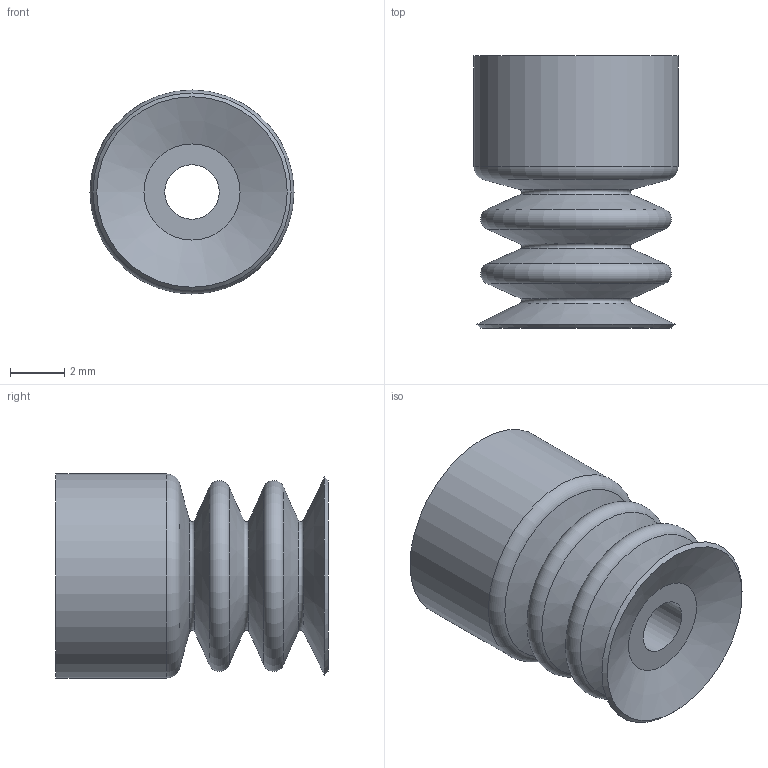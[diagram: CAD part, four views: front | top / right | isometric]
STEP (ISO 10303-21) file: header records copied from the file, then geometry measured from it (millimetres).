
FILE_DESCRIPTION(('STEP AP203'),'1');
FILE_NAME('_3D.stp','2025-02-13T07:29:27',(' '),(' '),'Spatial InterOp 3D',' ',' ');
FILE_SCHEMA(('CONFIG_CONTROL_DESIGN'));
Length unit declared in the file: millimetre
Products named in the file (1): 1
Bounding box: 7.5 x 10 x 7.5 mm (x, y, z)
Volume: 232.9 mm3; surface area: 504.6 mm2
Topology: 1 solids, 1 shells, 26 faces, 48 edges, 26 vertices
Faces by surface type: torus 10, cone 8, plane 4, cylinder 4
Full cylindrical faces by diameter (mm): 2 x1, 4 x1, 6 x1, 7.5 x1
Entity records: 572 total; most frequent: DIRECTION 106, CARTESIAN_POINT 79, AXIS2_PLACEMENT_3D 53, EDGE_LOOP 52, ORIENTED_EDGE 52, FACE_OUTER_BOUND 40, ADVANCED_FACE 26, EDGE_CURVE 26
